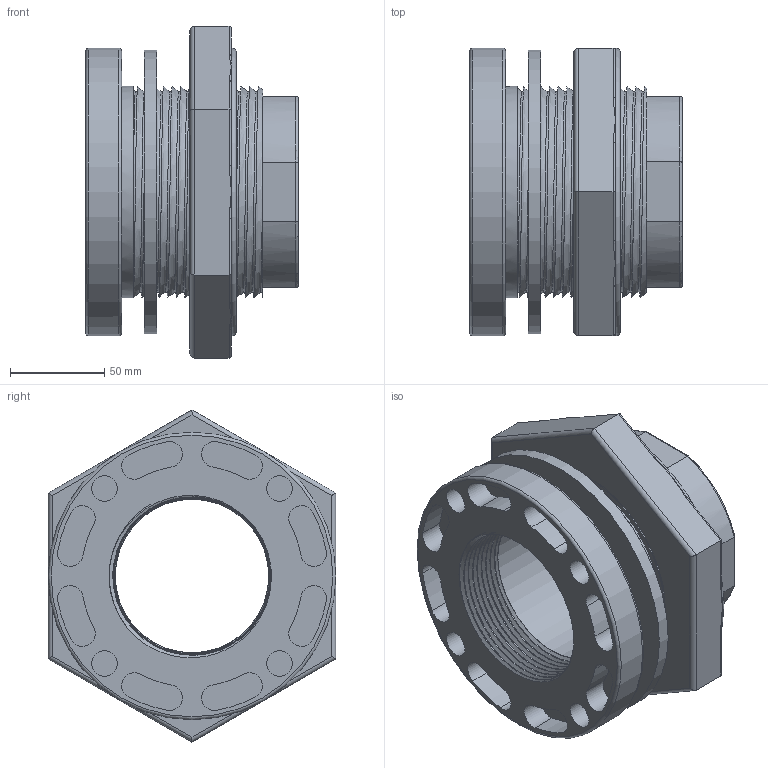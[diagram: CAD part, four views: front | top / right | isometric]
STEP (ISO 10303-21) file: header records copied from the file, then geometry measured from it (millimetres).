
FILE_DESCRIPTION(/* description */ ('Alibre Inc.'),/* implementation_level */ '2;1');
FILE_NAME(/* name */ 'export0',/* time_stamp */ '2017-10-20T11:48:23-04:00',/* author */ (''),/* organization */ (''),/* preprocessor_version */ 'ST-DEVELOPER v14',/* originating_system */ 'Alibre',/* authorisation */ '');
FILE_SCHEMA (('CONFIG_CONTROL_DESIGN'));
Length unit declared in the file: centimetre
Products named in the file (4): ID_2; ID_1
Bounding box: 112.78 x 152.4 x 175.98 mm (x, y, z)
Volume: 839097.1 mm3; surface area: 204021.5 mm2
Topology: 3 solids, 3 shells, 209 faces, 507 edges, 315 vertices
Faces by surface type: cylinder 92, plane 47, cone 41, bspline 22, torus 7
Full cylindrical faces by diameter (mm): 10.033 x6, 13.693 x4, 81.347 x1, 106.477 x16, 112.014 x1, 112.268 x1, 114.3 x1, 150.368 x1, 152.4 x2
Entity records: 99711 total; most frequent: CARTESIAN_POINT 95241, ORIENTED_EDGE 848, DIRECTION 759, EDGE_CURVE 424, AXIS2_PLACEMENT_3D 338, VERTEX_POINT 281, EDGE_LOOP 245, FACE_BOUND 245
